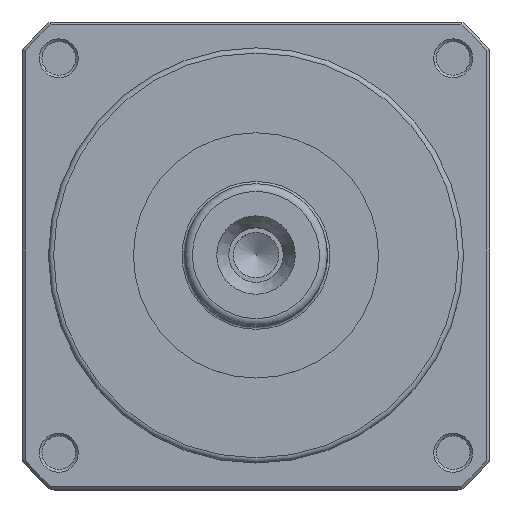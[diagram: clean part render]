
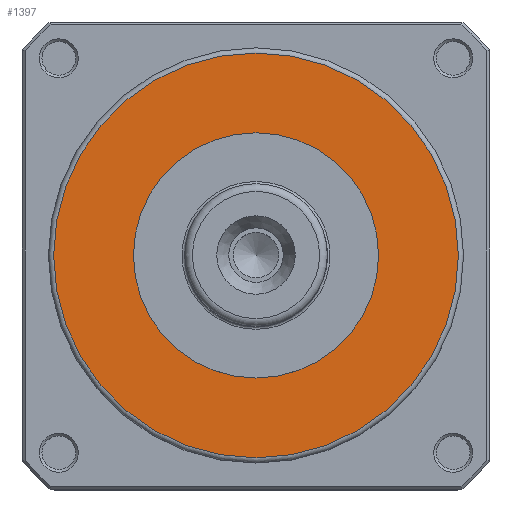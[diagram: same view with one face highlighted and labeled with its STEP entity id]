
A CAD part, top view. The second image highlights one B-rep face of the part: STEP entity #1397.
In plain terms, the highlighted planar face has unit normal (0, 0, 1).
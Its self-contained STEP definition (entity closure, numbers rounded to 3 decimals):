
#403=PLANE('',#5412);
#1397=ADVANCED_FACE('',(#1791,#1792),#403,.T.);
#1791=FACE_BOUND('',#2208,.T.);
#1792=FACE_BOUND('',#2209,.T.);
#2208=EDGE_LOOP('',(#3334));
#2209=EDGE_LOOP('',(#3335));
#3334=ORIENTED_EDGE('',*,*,#4409,.F.);
#3335=ORIENTED_EDGE('',*,*,#4579,.T.);
#3852=VERTEX_POINT('',#8161);
#3986=VERTEX_POINT('',#8504);
#4409=EDGE_CURVE('',#3852,#3852,#4814,.T.);
#4579=EDGE_CURVE('',#3986,#3986,#4888,.T.);
#4814=CIRCLE('',#5290,47.25);
#4888=CIRCLE('',#5411,78.);
#5290=AXIS2_PLACEMENT_3D('',#8160,#6443,#6444);
#5411=AXIS2_PLACEMENT_3D('',#8503,#6773,#6774);
#5412=AXIS2_PLACEMENT_3D('',#8505,#6775,#6776);
#6443=DIRECTION('',(0.,0.,1.));
#6444=DIRECTION('',(1.,0.,0.));
#6773=DIRECTION('',(0.,0.,1.));
#6774=DIRECTION('',(1.,0.,0.));
#6775=DIRECTION('',(0.,0.,1.));
#6776=DIRECTION('',(-1.,0.,0.));
#8160=CARTESIAN_POINT('',(0.,0.,219.5));
#8161=CARTESIAN_POINT('',(47.25,0.,219.5));
#8503=CARTESIAN_POINT('',(0.,0.,219.5));
#8504=CARTESIAN_POINT('',(78.,0.,219.5));
#8505=CARTESIAN_POINT('',(0.,0.,219.5));
